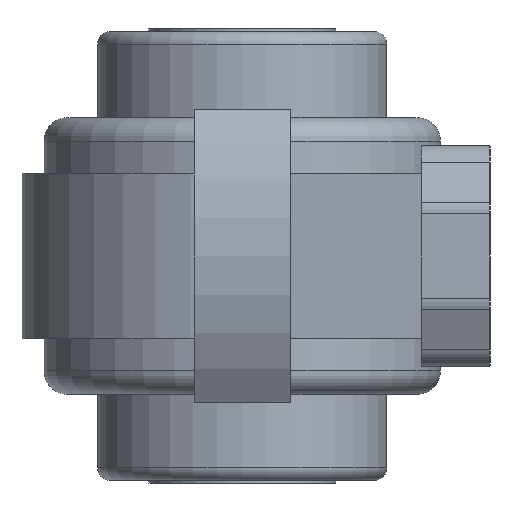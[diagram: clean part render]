
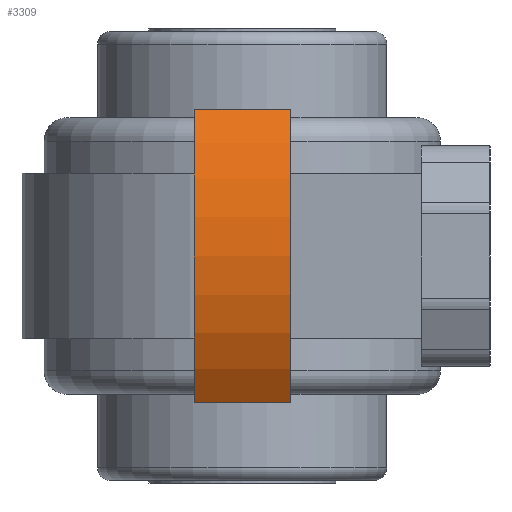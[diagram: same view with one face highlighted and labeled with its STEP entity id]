
A CAD part, left-side view. The second image highlights one B-rep face of the part: STEP entity #3309.
In plain terms, the highlighted cylindrical face has radius 18.3 mm (diameter 36.6 mm), a partial arc.
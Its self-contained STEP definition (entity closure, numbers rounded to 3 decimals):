
#3155=CARTESIAN_POINT('',(14.882,-3.5,-10.65));
#3156=VERTEX_POINT('',#3155);
#3163=CARTESIAN_POINT('',(14.882,-3.5,10.65));
#3164=VERTEX_POINT('',#3163);
#3165=CARTESIAN_POINT('',(0.0,-3.5,0.0));
#3166=DIRECTION('',(0.0,1.0,0.0));
#3167=DIRECTION('',(-0.813,0.0,-0.582));
#3168=AXIS2_PLACEMENT_3D('',#3165,#3166,#3167);
#3169=CIRCLE('',#3168,18.3);
#3170=EDGE_CURVE('',#3164,#3156,#3169,.T.);
#3266=CARTESIAN_POINT('',(14.882,3.5,-10.65));
#3267=VERTEX_POINT('',#3266);
#3274=CARTESIAN_POINT('',(14.882,3.5,-10.65));
#3275=DIRECTION('',(0.0,-1.0,0.0));
#3276=VECTOR('',#3275,7.);
#3277=LINE('',#3274,#3276);
#3278=EDGE_CURVE('',#3267,#3156,#3277,.T.);
#3285=CARTESIAN_POINT('',(0.0,0.0,0.0));
#3286=DIRECTION('',(0.0,1.0,0.0));
#3287=DIRECTION('',(-0.813,0.0,-0.582));
#3288=AXIS2_PLACEMENT_3D('',#3285,#3286,#3287);
#3289=CYLINDRICAL_SURFACE('',#3288,18.3);
#3290=CARTESIAN_POINT('',(14.882,3.5,10.65));
#3291=VERTEX_POINT('',#3290);
#3292=CARTESIAN_POINT('',(0.0,3.5,0.0));
#3293=DIRECTION('',(0.0,-1.0,0.0));
#3294=DIRECTION('',(-0.813,0.0,-0.582));
#3295=AXIS2_PLACEMENT_3D('',#3292,#3293,#3294);
#3296=CIRCLE('',#3295,18.3);
#3297=EDGE_CURVE('',#3267,#3291,#3296,.T.);
#3298=ORIENTED_EDGE('',*,*,#3297,.T.);
#3299=CARTESIAN_POINT('',(14.882,3.5,10.65));
#3300=DIRECTION('',(0.0,-1.0,0.0));
#3301=VECTOR('',#3300,7.);
#3302=LINE('',#3299,#3301);
#3303=EDGE_CURVE('',#3291,#3164,#3302,.T.);
#3304=ORIENTED_EDGE('',*,*,#3303,.T.);
#3305=ORIENTED_EDGE('',*,*,#3170,.T.);
#3306=ORIENTED_EDGE('',*,*,#3278,.F.);
#3307=EDGE_LOOP('',(#3298,#3304,#3305,#3306));
#3308=FACE_OUTER_BOUND('',#3307,.T.);
#3309=ADVANCED_FACE('',(#3308),#3289,.T.);
